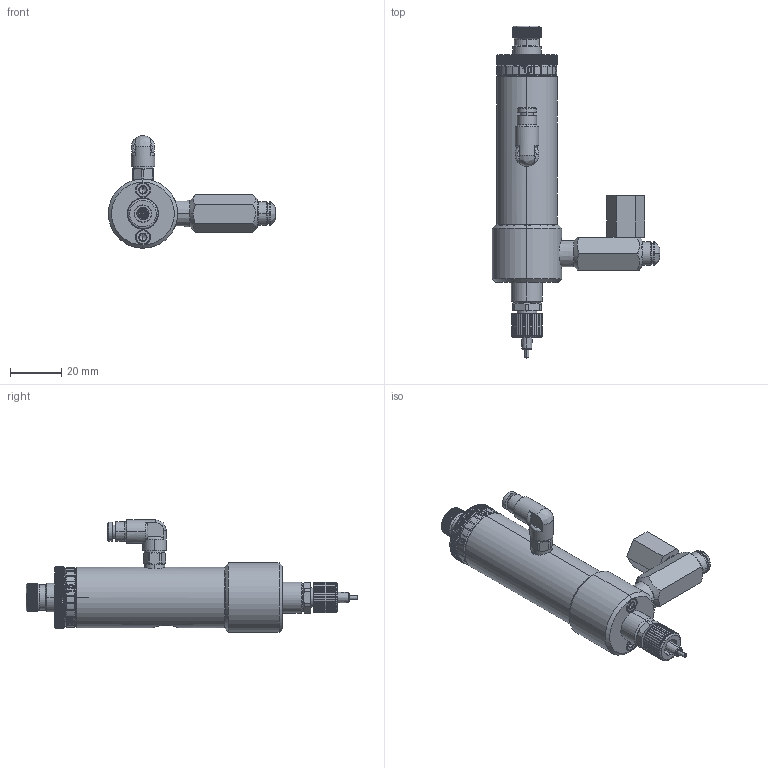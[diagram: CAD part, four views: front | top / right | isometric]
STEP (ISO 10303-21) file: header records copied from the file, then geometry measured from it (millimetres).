
FILE_DESCRIPTION (( 'STEP AP214' ), '1' );
FILE_NAME ('NORDSONEFD-7021233 741MD-SS MICRODOT VALVE.STEP', '2018-12-24T05:39:08', ( '' ), ( '' ), 'SwSTEP 2.0', 'SolidWorks 2018', '' );
FILE_SCHEMA (( 'AUTOMOTIVE_DESIGN' ));
Length unit declared in the file: inch
Products named in the file (1): NORDSONEFD-7021233 741MD-SS MICRODOT VALVE
Bounding box: 65.05 x 128.98 x 43.69 mm (x, y, z)
Volume: 51407.6 mm3; surface area: 16401.5 mm2
Topology: 1 solids, 1 shells, 1413 faces, 4029 edges, 2629 vertices
Faces by surface type: plane 728, cylinder 401, bspline 147, cone 137
Entity records: 61430 total; most frequent: CARTESIAN_POINT 21261, ORIENTED_EDGE 8030, DIRECTION 6014, EDGE_CURVE 4015, VERTEX_POINT 2629, AXIS2_PLACEMENT_3D 2228, VECTOR 1558, LINE 1558
